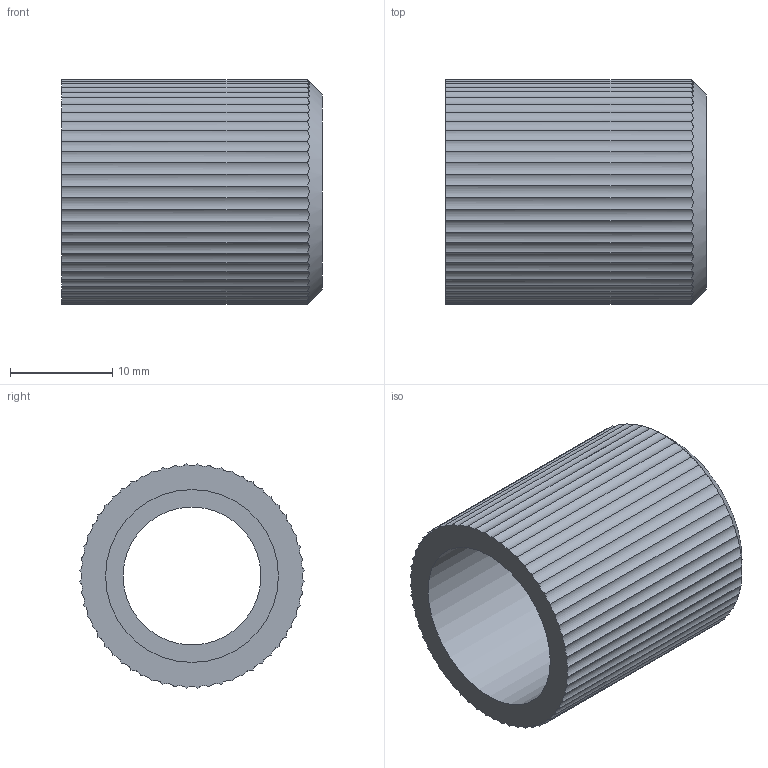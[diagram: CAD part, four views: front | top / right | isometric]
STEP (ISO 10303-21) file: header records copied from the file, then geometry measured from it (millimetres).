
FILE_DESCRIPTION( ( 'Unknown' ), '1' );
FILE_NAME( '//baumerholding.org/frauenfeld/bereich/BECH/Services/me_CAD/Solid Edge/Models/Dokumentationen/Opto/Zubehör/Vereinfachte Modelle/Neutralformate/10101480.stp', 'Unknown', ( 'Unknown' ), ( 'Unknown' ), 'PSStep 10.0', 'Unknown', ' ' );
FILE_SCHEMA( ( 'AUTOMOTIVE_DESIGN { 1 0 10303 214 1 1 1 1 }' ) );
Length unit declared in the file: millimetre
Products named in the file (1): 1
Bounding box: 25.5 x 21.93 x 21.93 mm (x, y, z)
Volume: 3877.9 mm3; surface area: 3585.6 mm2
Topology: 1 solids, 1 shells, 66 faces, 190 edges, 127 vertices
Faces by surface type: cylinder 62, plane 3, cone 1
Full cylindrical faces by diameter (mm): 13.5 x1, 16.917 x1
Entity records: 3122 total; most frequent: CARTESIAN_POINT 917, ORIENTED_EDGE 370, DIRECTION 324, EDGE_CURVE 185, AXIS2_PLACEMENT_3D 132, VERTEX_POINT 125, EDGE_LOOP 72, FACE_OUTER_BOUND 68
